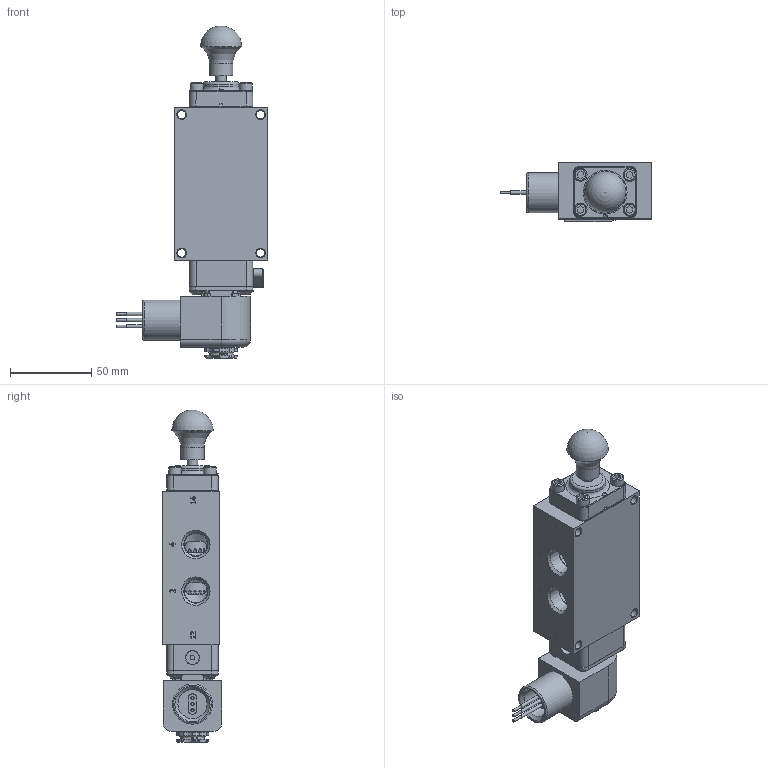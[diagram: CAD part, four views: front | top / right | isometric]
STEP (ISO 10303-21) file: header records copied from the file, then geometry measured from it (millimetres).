
FILE_DESCRIPTION(/* description */ (''),/* implementation_level */ '2;1');
FILE_NAME(/* name */ 'ZESO3XOCOSZ.stp',/* time_stamp */ '2026-08-06T09:09:14-04:00',/* author */ ('rmckenna'),/* organization */ (''),/* preprocessor_version */ 'ST-DEVELOPER v20.1',/* originating_system */ 'Autodesk Inventor 2026',/* authorisation */ '');
FILE_SCHEMA (('AUTOMOTIVE_DESIGN { 1 0 10303 214 3 1 1 }'));
Products named in the file (1): Part53
Bounding box: 92.9 x 36.56 x 203.78 mm (x, y, z)
Volume: 244848 mm3; surface area: 78557.1 mm2
Topology: 1 solids, 20 shells, 1579 faces, 3890 edges, 2473 vertices
Faces by surface type: plane 720, cylinder 388, cone 258, torus 120, bspline 87, sphere 6
Full cylindrical faces by diameter (mm): 1.168 x10, 1.3 x1, 1.397 x1, 1.5 x1, 1.524 x3, 2.032 x11, 2.35 x4, 2.381 x1, 2.5 x1, 2.8 x1, 3 x4, 3.048 x1, 3.175 x1, 3.4 x1, 3.683 x9, 4.191 x2, 4.394 x1, 4.826 x8, 4.978 x1, 5.15 x4, 5.156 x12, 5.5 x1, 6.35 x4, 6.65 x1, 7.29 x1, 7.541 x1, 7.9 x1, 7.938 x4, 8 x2, 8.153 x1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
Entity records: 52694 total; most frequent: CARTESIAN_POINT 13631, ORIENTED_EDGE 7754, DIRECTION 7722, EDGE_CURVE 3877, AXIS2_PLACEMENT_3D 2866, VERTEX_POINT 2472, LINE 1990, VECTOR 1990
